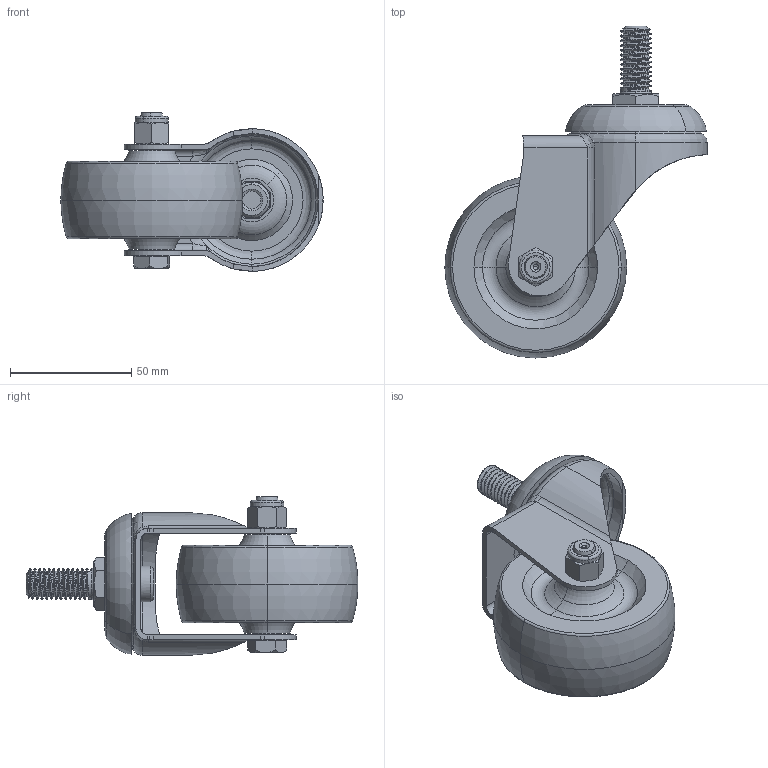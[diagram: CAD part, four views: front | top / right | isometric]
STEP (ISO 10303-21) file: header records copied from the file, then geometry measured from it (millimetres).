
FILE_DESCRIPTION (( 'STEP AP203' ), '1' );
FILE_NAME ('4111603002080-フ臟笆ェ纒近-(セ︹玴).STEP', '2025-11-07T03:29:20', ( '' ), ( '' ), 'SwSTEP 2.0', 'SolidWorks 2019', '' );
FILE_SCHEMA (( 'CONFIG_CONTROL_DESIGN' ));
Length unit declared in the file: metre
Products named in the file (1): 4111603002080-白鐵活動尼龍輪-(本色厚)
Bounding box: 108.2 x 136.93 x 65.4 mm (x, y, z)
Surface area: 47224.5 mm2 (no closed solid volume)
Topology: 0 solids, 13 shells, 234 faces, 609 edges, 386 vertices
Faces by surface type: cylinder 71, plane 64, torus 61, cone 23, bspline 13, sphere 2
Entity records: 13771 total; most frequent: CARTESIAN_POINT 8231, DIRECTION 1156, ORIENTED_EDGE 1107, EDGE_CURVE 607, AXIS2_PLACEMENT_3D 478, VERTEX_POINT 386, CIRCLE 256, EDGE_LOOP 249
